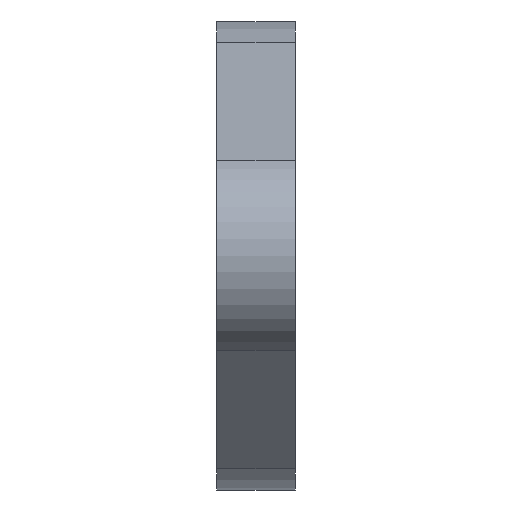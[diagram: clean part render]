
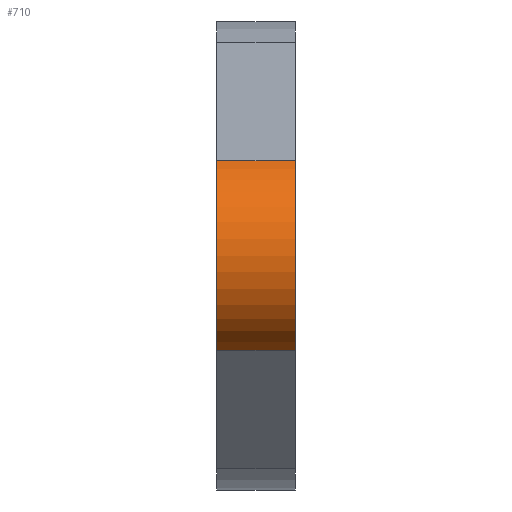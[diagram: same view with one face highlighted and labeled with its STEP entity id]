
A CAD part, left-side view. The second image highlights one B-rep face of the part: STEP entity #710.
In plain terms, the highlighted cylindrical face has radius 8 mm (diameter 16 mm), a partial arc.
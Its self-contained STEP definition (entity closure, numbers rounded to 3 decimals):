
#17 = AXIS2_PLACEMENT_3D ( 'NONE', #1183, #235, #51 ) ;
#51 = DIRECTION ( 'NONE',  ( 0., 0., -1. ) ) ;
#55 = CARTESIAN_POINT ( 'NONE',  ( -27.333, 0., -7.272 ) ) ;
#64 = CIRCLE ( 'NONE', #678, 8. ) ;
#77 = VERTEX_POINT ( 'NONE', #816 ) ;
#88 = VERTEX_POINT ( 'NONE', #55 ) ;
#136 = ORIENTED_EDGE ( 'NONE', *, *, #293, .F. ) ;
#160 = ORIENTED_EDGE ( 'NONE', *, *, #1195, .T. ) ;
#235 = DIRECTION ( 'NONE',  ( 0., -1., 0. ) ) ;
#288 = CYLINDRICAL_SURFACE ( 'NONE', #17, 8. ) ;
#293 = EDGE_CURVE ( 'NONE', #821, #77, #540, .T. ) ;
#299 = EDGE_CURVE ( 'NONE', #77, #88, #64, .T. ) ;
#339 = CARTESIAN_POINT ( 'NONE',  ( -27.333, 6., 7.272 ) ) ;
#367 = EDGE_LOOP ( 'NONE', ( #535, #136, #160, #875 ) ) ;
#406 = CARTESIAN_POINT ( 'NONE',  ( -24., 6., 0. ) ) ;
#412 = EDGE_CURVE ( 'NONE', #771, #88, #1076, .T. ) ;
#466 = CARTESIAN_POINT ( 'NONE',  ( -24., 0., 0. ) ) ;
#535 = ORIENTED_EDGE ( 'NONE', *, *, #299, .F. ) ;
#540 = LINE ( 'NONE', #841, #752 ) ;
#578 = DIRECTION ( 'NONE',  ( 0., -1., 0. ) ) ;
#591 = DIRECTION ( 'NONE',  ( 0., -1., 0. ) ) ;
#596 = CARTESIAN_POINT ( 'NONE',  ( -27.333, 6., -7.272 ) ) ;
#678 = AXIS2_PLACEMENT_3D ( 'NONE', #466, #747, #847 ) ;
#710 = ADVANCED_FACE ( 'NONE', ( #899 ), #288, .T. ) ;
#714 = CIRCLE ( 'NONE', #1186, 8. ) ;
#747 = DIRECTION ( 'NONE',  ( 0., -1., 0. ) ) ;
#749 = DIRECTION ( 'NONE',  ( 0., -1., 0. ) ) ;
#752 = VECTOR ( 'NONE', #749, 1000. ) ;
#771 = VERTEX_POINT ( 'NONE', #596 ) ;
#788 = DIRECTION ( 'NONE',  ( 0., 0., 1. ) ) ;
#816 = CARTESIAN_POINT ( 'NONE',  ( -27.333, 0., 7.272 ) ) ;
#821 = VERTEX_POINT ( 'NONE', #339 ) ;
#841 = CARTESIAN_POINT ( 'NONE',  ( -27.333, 6., 7.272 ) ) ;
#847 = DIRECTION ( 'NONE',  ( 0., 0., 1. ) ) ;
#866 = CARTESIAN_POINT ( 'NONE',  ( -27.333, 6., -7.272 ) ) ;
#869 = VECTOR ( 'NONE', #578, 1000. ) ;
#875 = ORIENTED_EDGE ( 'NONE', *, *, #412, .T. ) ;
#899 = FACE_OUTER_BOUND ( 'NONE', #367, .T. ) ;
#1076 = LINE ( 'NONE', #866, #869 ) ;
#1183 = CARTESIAN_POINT ( 'NONE',  ( -24., 6., 0. ) ) ;
#1186 = AXIS2_PLACEMENT_3D ( 'NONE', #406, #591, #788 ) ;
#1195 = EDGE_CURVE ( 'NONE', #821, #771, #714, .T. ) ;
